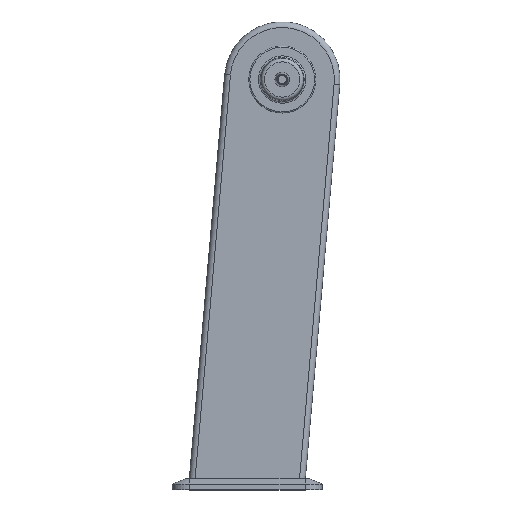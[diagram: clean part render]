
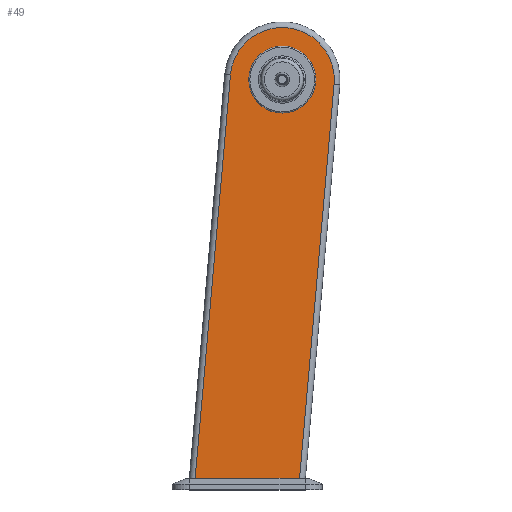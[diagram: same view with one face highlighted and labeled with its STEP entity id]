
A CAD part, top view. The second image highlights one B-rep face of the part: STEP entity #49.
In plain terms, the highlighted planar face has unit normal (0, 0, 1).
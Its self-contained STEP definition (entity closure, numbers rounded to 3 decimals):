
#2 = EDGE_LOOP ( 'NONE', ( #755 ) ) ;
#12 = CARTESIAN_POINT ( 'NONE',  ( 0., 0., 31.25 ) ) ;
#49 = ADVANCED_FACE ( 'NONE', ( #131, #1570 ), #620, .T. ) ;
#131 = FACE_OUTER_BOUND ( 'NONE', #1650, .T. ) ;
#153 = DIRECTION ( 'NONE',  ( 1., 0., 0. ) ) ;
#235 = ORIENTED_EDGE ( 'NONE', *, *, #297, .T. ) ;
#280 = CARTESIAN_POINT ( 'NONE',  ( -89.658, 7.844, 31.25 ) ) ;
#297 = EDGE_CURVE ( 'NONE', #428, #710, #1551, .T. ) ;
#355 = CARTESIAN_POINT ( 'NONE',  ( 0., 0., 31.25 ) ) ;
#392 = EDGE_CURVE ( 'NONE', #934, #413, #1689, .T. ) ;
#413 = VERTEX_POINT ( 'NONE', #280 ) ;
#428 = VERTEX_POINT ( 'NONE', #849 ) ;
#445 = LINE ( 'NONE', #692, #1394 ) ;
#483 = CARTESIAN_POINT ( 'NONE',  ( 0., 0., 31.25 ) ) ;
#496 = DIRECTION ( 'NONE',  ( 1., 0., 0. ) ) ;
#554 = CIRCLE ( 'NONE', #568, 58. ) ;
#566 = AXIS2_PLACEMENT_3D ( 'NONE', #12, #978, #153 ) ;
#568 = AXIS2_PLACEMENT_3D ( 'NONE', #355, #1310, #496 ) ;
#617 = VECTOR ( 'NONE', #1637, 1000. ) ;
#620 = PLANE ( 'NONE',  #1263 ) ;
#692 = CARTESIAN_POINT ( 'NONE',  ( 89.658, -7.844, 31.25 ) ) ;
#710 = VERTEX_POINT ( 'NONE', #921 ) ;
#755 = ORIENTED_EDGE ( 'NONE', *, *, #1736, .F. ) ;
#764 = DIRECTION ( 'NONE',  ( 1., 0., 0. ) ) ;
#837 = CARTESIAN_POINT ( 'NONE',  ( -152.537, -710.872, 31.25 ) ) ;
#849 = CARTESIAN_POINT ( 'NONE',  ( -150.711, -690., 31.25 ) ) ;
#875 = VERTEX_POINT ( 'NONE', #1582 ) ;
#886 = ORIENTED_EDGE ( 'NONE', *, *, #1484, .T. ) ;
#912 = VECTOR ( 'NONE', #1614, 1000. ) ;
#921 = CARTESIAN_POINT ( 'NONE',  ( 29.977, -690., 31.25 ) ) ;
#934 = VERTEX_POINT ( 'NONE', #1379 ) ;
#978 = DIRECTION ( 'NONE',  ( 0., 0., 1. ) ) ;
#1027 = ORIENTED_EDGE ( 'NONE', *, *, #1429, .T. ) ;
#1263 = AXIS2_PLACEMENT_3D ( 'NONE', #483, #1416, #764 ) ;
#1310 = DIRECTION ( 'NONE',  ( 0., 0., 1. ) ) ;
#1379 = CARTESIAN_POINT ( 'NONE',  ( 89.658, -7.844, 31.25 ) ) ;
#1394 = VECTOR ( 'NONE', #1496, 1000. ) ;
#1416 = DIRECTION ( 'NONE',  ( 0., 0., 1. ) ) ;
#1429 = EDGE_CURVE ( 'NONE', #710, #934, #445, .T. ) ;
#1437 = LINE ( 'NONE', #837, #617 ) ;
#1484 = EDGE_CURVE ( 'NONE', #413, #428, #1437, .T. ) ;
#1496 = DIRECTION ( 'NONE',  ( 0.087, 0.996, 0. ) ) ;
#1525 = ORIENTED_EDGE ( 'NONE', *, *, #392, .T. ) ;
#1551 = LINE ( 'NONE', #1735, #912 ) ;
#1570 = FACE_BOUND ( 'NONE', #2, .T. ) ;
#1582 = CARTESIAN_POINT ( 'NONE',  ( 58., 0., 31.25 ) ) ;
#1614 = DIRECTION ( 'NONE',  ( 1., 0., 0. ) ) ;
#1637 = DIRECTION ( 'NONE',  ( -0.087, -0.996, 0. ) ) ;
#1650 = EDGE_LOOP ( 'NONE', ( #886, #235, #1027, #1525 ) ) ;
#1689 = CIRCLE ( 'NONE', #566, 90. ) ;
#1735 = CARTESIAN_POINT ( 'NONE',  ( 0., -690., 31.25 ) ) ;
#1736 = EDGE_CURVE ( 'NONE', #875, #875, #554, .T. ) ;
